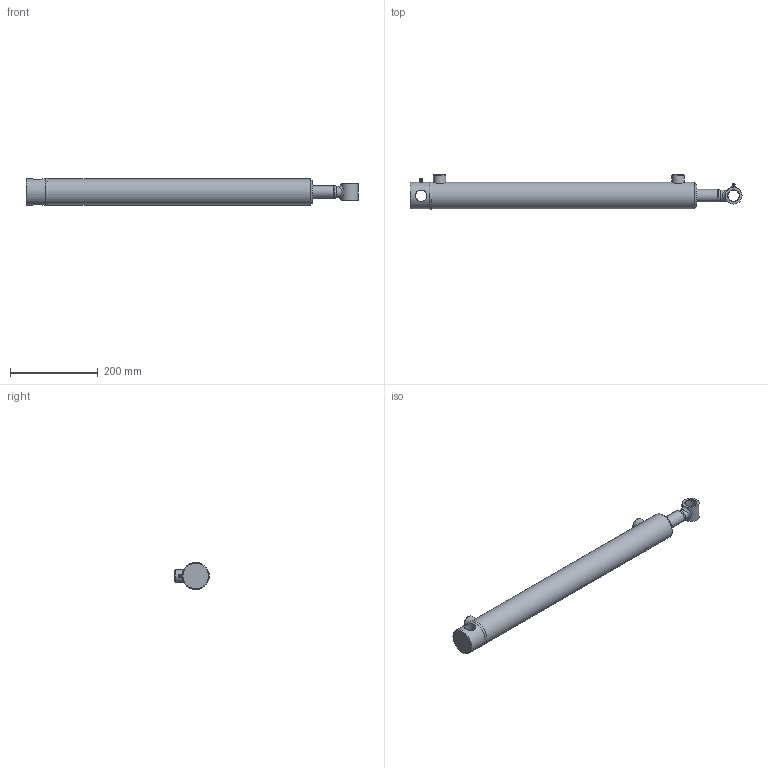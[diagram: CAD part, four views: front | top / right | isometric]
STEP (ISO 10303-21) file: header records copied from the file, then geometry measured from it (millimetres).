
FILE_DESCRIPTION(/* description */ ('Ø2.00 X 20.00 DA'),/* implementation_level */ '2;1');
FILE_NAME(/* name */ 'T:\Aces\Jobs\747fb5b49be84fd0ac087c7de3a6d158\result.stp',/* time_stamp */ '2022-10-05T20:32:56+00:00',/* author */ (''),/* organization */ ('PRINCE MANUFACTURING'),/* preprocessor_version */ 'ST-DEVELOPER v18.1',/* originating_system */ 'Autodesk Inventor 2022',/* authorisation */ '');
FILE_SCHEMA (('AUTOMOTIVE_DESIGN { 1 0 10303 214 3 1 1 }'));
Length unit declared in the file: inch
Products named in the file (21): PC2020011A00-280XYXA; 0611-XYSF000-23600; 0511-T-23600; 161100184; 200015602; 06Weld1_C360; 0711-P-075; 220000208; 0811-G-113; 230025102; 230025002; 240000018; 240061326; 240000326; 0205A-FAW0-25800XA; 0105A-FAW0-25800; 210400807; 02Weld_C360; 240037071; 250001216; 270010020
Assembly tree (22 placements, depth 3):
  PC2020011A00-280XYXA
    0611-XYSF000-23600
      0511-T-23600
      161100184
      200015602  x2
      06Weld1_C360
    0711-P-075
    220000208
    0811-G-113
    230025102
    230025002
    240000018
    240061326
    240000326
    0205A-FAW0-25800XA
      0105A-FAW0-25800
      210400807
      02Weld_C360
    240037071
    250001216
    270010020  x2
Bounding box: 755.65 x 78.61 x 61.85 mm (x, y, z)
Volume: 1166968.5 mm3; surface area: 363185 mm2
Topology: 24 solids, 24 shells, 404 faces, 950 edges, 616 vertices
Faces by surface type: plane 104, torus 81, cylinder 77, cone 76, bspline 62, sphere 4
Full cylindrical faces by diameter (mm): 2.143 x4, 5.359 x2, 6.35 x2, 9.525 x2, 17.323 x3, 18.237 x1, 18.288 x1, 18.999 x1, 19.126 x1, 21.615 x1, 25.4 x1, 25.781 x2, 28.575 x4, 28.651 x2, 29.21 x2, 31.598 x1, 34.29 x1, 34.9 x2, 34.95 x1, 35.56 x1, 38.1 x2, 41.377 x2, 42.113 x2, 47.231 x2, 47.371 x1, 47.396 x4, 50.186 x2, 50.571 x6, 50.648 x1, 50.8 x4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
Entity records: 27132 total; most frequent: CARTESIAN_POINT 17850, DIRECTION 1756, ORIENTED_EDGE 1698, EDGE_CURVE 849, AXIS2_PLACEMENT_3D 777, VERTEX_POINT 555, CIRCLE 432, EDGE_LOOP 426
